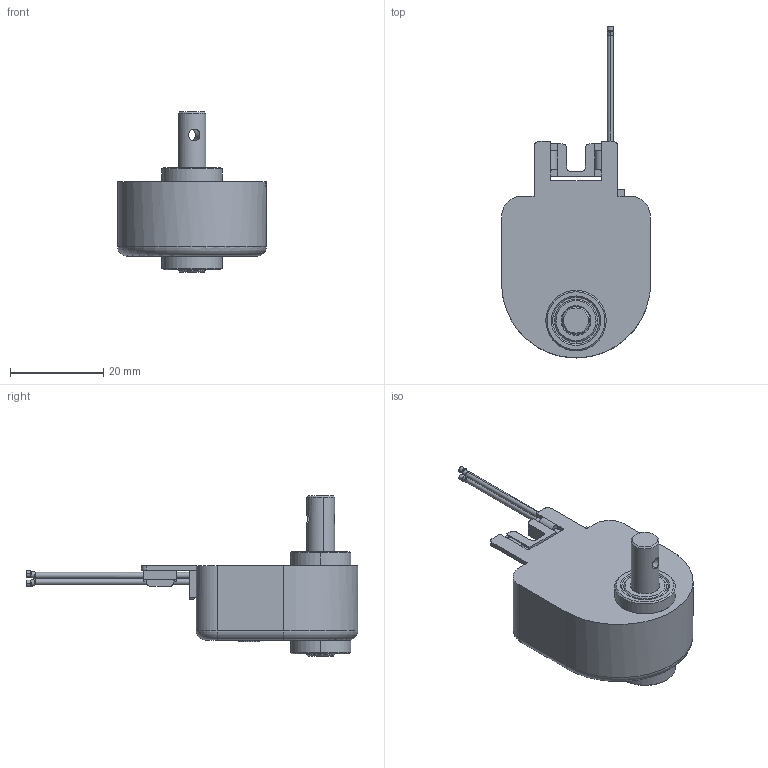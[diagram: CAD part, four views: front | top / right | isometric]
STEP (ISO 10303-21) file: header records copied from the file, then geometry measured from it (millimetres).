
FILE_DESCRIPTION (( 'STEP AP203' ), '1' );
FILE_NAME ('KSA30H_3D.STEP', '2026-01-29T05:53:29', ( '' ), ( '' ), 'SwSTEP 2.0', 'SolidWorks 2022', '' );
FILE_SCHEMA (( 'CONFIG_CONTROL_DESIGN' ));
Length unit declared in the file: millimetre
Products named in the file (1): KSA30H_3D
Bounding box: 32 x 71.3 x 34.5 mm (x, y, z)
Volume: 17337 mm3; surface area: 5254.6 mm2
Topology: 1 solids, 5 shells, 229 faces, 578 edges, 366 vertices
Faces by surface type: plane 120, cylinder 74, cone 24, torus 11
Entity records: 7093 total; most frequent: CARTESIAN_POINT 1406, DIRECTION 1202, ORIENTED_EDGE 1156, EDGE_CURVE 578, AXIS2_PLACEMENT_3D 418, LINE 366, VECTOR 366, VERTEX_POINT 366
